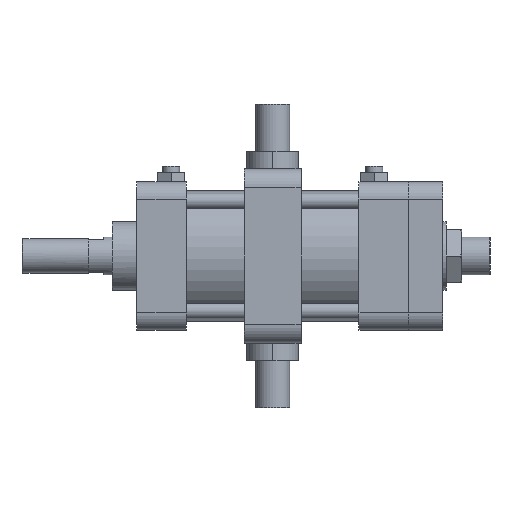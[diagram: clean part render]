
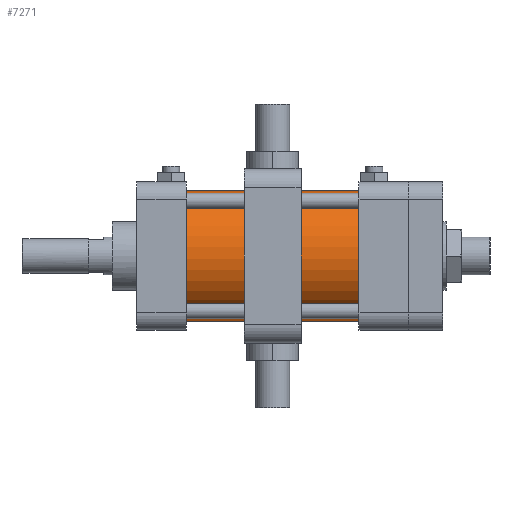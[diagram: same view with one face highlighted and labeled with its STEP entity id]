
A CAD part, front view. The second image highlights one B-rep face of the part: STEP entity #7271.
In plain terms, the highlighted cylindrical face has radius 34.5 mm (diameter 69 mm), a partial arc.
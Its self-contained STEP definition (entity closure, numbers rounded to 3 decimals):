
#167 = VERTEX_POINT ( 'NONE', #7992 ) ;
#364 = AXIS2_PLACEMENT_3D ( 'NONE', #669, #3515, #9293 ) ;
#396 = CIRCLE ( 'NONE', #7120, 34.5 ) ;
#624 = CARTESIAN_POINT ( 'NONE',  ( 45.5, 0., 34.5 ) ) ;
#669 = CARTESIAN_POINT ( 'NONE',  ( -45.5, 0., 0. ) ) ;
#792 = CYLINDRICAL_SURFACE ( 'NONE', #9090, 34.5 ) ;
#939 = CARTESIAN_POINT ( 'NONE',  ( -29.1, 0., -34.5 ) ) ;
#1533 = VERTEX_POINT ( 'NONE', #2495 ) ;
#1829 = VECTOR ( 'NONE', #6072, 1000. ) ;
#2245 = CIRCLE ( 'NONE', #364, 34.5 ) ;
#2495 = CARTESIAN_POINT ( 'NONE',  ( 45.5, 0., -34.5 ) ) ;
#2612 = EDGE_CURVE ( 'NONE', #1533, #7268, #396, .T. ) ;
#2796 = EDGE_CURVE ( 'NONE', #7268, #167, #3323, .T. ) ;
#3177 = LINE ( 'NONE', #939, #5942 ) ;
#3323 = LINE ( 'NONE', #7246, #1829 ) ;
#3372 = EDGE_CURVE ( 'NONE', #7348, #167, #2245, .T. ) ;
#3515 = DIRECTION ( 'NONE',  ( -1., 0., 0. ) ) ;
#4055 = ORIENTED_EDGE ( 'NONE', *, *, #2796, .T. ) ;
#4127 = DIRECTION ( 'NONE',  ( 0., 0., 1. ) ) ;
#4788 = DIRECTION ( 'NONE',  ( -1., 0., 0. ) ) ;
#4944 = DIRECTION ( 'NONE',  ( -1., 0., 0. ) ) ;
#4947 = CARTESIAN_POINT ( 'NONE',  ( -29.1, 0., 0. ) ) ;
#5942 = VECTOR ( 'NONE', #4944, 1000. ) ;
#5986 = ORIENTED_EDGE ( 'NONE', *, *, #2612, .T. ) ;
#5987 = ORIENTED_EDGE ( 'NONE', *, *, #7623, .F. ) ;
#6044 = CARTESIAN_POINT ( 'NONE',  ( 45.5, 0., 0. ) ) ;
#6072 = DIRECTION ( 'NONE',  ( -1., 0., 0. ) ) ;
#6371 = DIRECTION ( 'NONE',  ( -1., 0., 0. ) ) ;
#6407 = FACE_OUTER_BOUND ( 'NONE', #8199, .T. ) ;
#6486 = ORIENTED_EDGE ( 'NONE', *, *, #3372, .F. ) ;
#7120 = AXIS2_PLACEMENT_3D ( 'NONE', #6044, #6371, #4127 ) ;
#7246 = CARTESIAN_POINT ( 'NONE',  ( -29.1, 0., 34.5 ) ) ;
#7268 = VERTEX_POINT ( 'NONE', #624 ) ;
#7271 = ADVANCED_FACE ( 'NONE', ( #6407 ), #792, .T. ) ;
#7348 = VERTEX_POINT ( 'NONE', #9934 ) ;
#7623 = EDGE_CURVE ( 'NONE', #1533, #7348, #3177, .T. ) ;
#7992 = CARTESIAN_POINT ( 'NONE',  ( -45.5, 0., 34.5 ) ) ;
#8199 = EDGE_LOOP ( 'NONE', ( #5987, #5986, #4055, #6486 ) ) ;
#8755 = DIRECTION ( 'NONE',  ( 0., 0., 1. ) ) ;
#9090 = AXIS2_PLACEMENT_3D ( 'NONE', #4947, #4788, #8755 ) ;
#9293 = DIRECTION ( 'NONE',  ( 0., 0., 1. ) ) ;
#9934 = CARTESIAN_POINT ( 'NONE',  ( -45.5, 0., -34.5 ) ) ;
